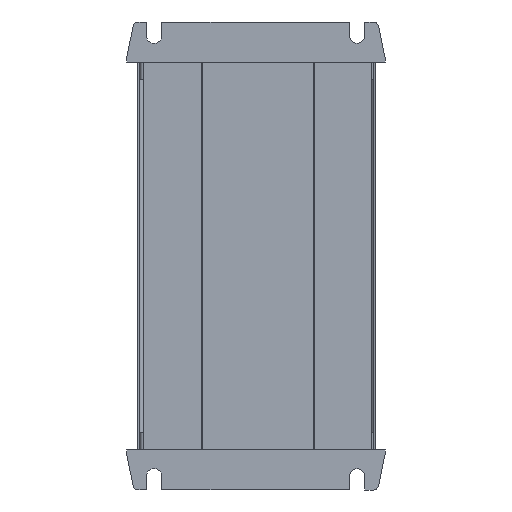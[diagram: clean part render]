
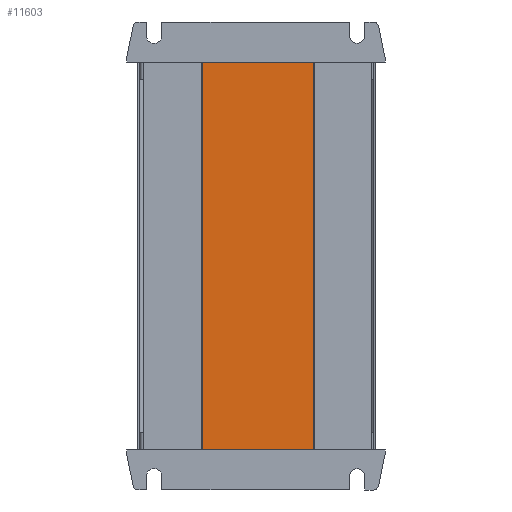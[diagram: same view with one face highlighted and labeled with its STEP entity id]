
A CAD part, front view. The second image highlights one B-rep face of the part: STEP entity #11603.
In plain terms, the highlighted planar face has unit normal (0, -1, 0).
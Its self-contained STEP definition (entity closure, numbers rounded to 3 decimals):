
#4709 = PLANE('',#4710);
#4710 = AXIS2_PLACEMENT_3D('',#4711,#4712,#4713);
#4711 = CARTESIAN_POINT('',(-43.682,-13.302,146.91));
#4712 = DIRECTION('',(0.,0.,-1.));
#4713 = DIRECTION('',(-1.,0.,0.));
#5864 = VERTEX_POINT('',#5865);
#5865 = CARTESIAN_POINT('',(21.926,-13.336,146.91));
#5879 = PLANE('',#5880);
#5880 = AXIS2_PLACEMENT_3D('',#5881,#5882,#5883);
#5881 = CARTESIAN_POINT('',(22.097,-13.841,-3.09));
#5882 = DIRECTION('',(-0.947,-0.321,0.));
#5883 = DIRECTION('',(-0.321,0.947,0.));
#5891 = EDGE_CURVE('',#5892,#5864,#5894,.T.);
#5892 = VERTEX_POINT('',#5893);
#5893 = CARTESIAN_POINT('',(-21.187,-13.336,146.91));
#5894 = SURFACE_CURVE('',#5895,(#5899,#5906),.PCURVE_S1.);
#5895 = LINE('',#5896,#5897);
#5896 = CARTESIAN_POINT('',(-21.187,-13.336,146.91));
#5897 = VECTOR('',#5898,1.);
#5898 = DIRECTION('',(1.,0.,0.));
#5899 = PCURVE('',#4709,#5900);
#5900 = DEFINITIONAL_REPRESENTATION('',(#5901),#5905);
#5901 = LINE('',#5902,#5903);
#5902 = CARTESIAN_POINT('',(-22.495,-0.034));
#5903 = VECTOR('',#5904,1.);
#5904 = DIRECTION('',(-1.,0.));
#5905 = ( GEOMETRIC_REPRESENTATION_CONTEXT(2) 
PARAMETRIC_REPRESENTATION_CONTEXT() REPRESENTATION_CONTEXT('2D SPACE',''
  ) );
#5906 = PCURVE('',#5907,#5912);
#5907 = PLANE('',#5908);
#5908 = AXIS2_PLACEMENT_3D('',#5909,#5910,#5911);
#5909 = CARTESIAN_POINT('',(-21.187,-13.336,-3.09));
#5910 = DIRECTION('',(0.,1.,0.));
#5911 = DIRECTION('',(1.,0.,0.));
#5912 = DEFINITIONAL_REPRESENTATION('',(#5913),#5917);
#5913 = LINE('',#5914,#5915);
#5914 = CARTESIAN_POINT('',(0.,-150.));
#5915 = VECTOR('',#5916,1.);
#5916 = DIRECTION('',(1.,0.));
#5917 = ( GEOMETRIC_REPRESENTATION_CONTEXT(2) 
PARAMETRIC_REPRESENTATION_CONTEXT() REPRESENTATION_CONTEXT('2D SPACE',''
  ) );
#5935 = PLANE('',#5936);
#5936 = AXIS2_PLACEMENT_3D('',#5937,#5938,#5939);
#5937 = CARTESIAN_POINT('',(-21.703,-13.861,-3.09));
#5938 = DIRECTION('',(-0.713,0.701,0.));
#5939 = DIRECTION('',(0.701,0.713,0.));
#7409 = PLANE('',#7410);
#7410 = AXIS2_PLACEMENT_3D('',#7411,#7412,#7413);
#7411 = CARTESIAN_POINT('',(49.635,-16.974,-3.09));
#7412 = DIRECTION('',(0.,0.,1.));
#7413 = DIRECTION('',(1.,0.,0.));
#11560 = EDGE_CURVE('',#11561,#5864,#11563,.T.);
#11561 = VERTEX_POINT('',#11562);
#11562 = CARTESIAN_POINT('',(21.926,-13.336,-3.09));
#11563 = SURFACE_CURVE('',#11564,(#11568,#11575),.PCURVE_S1.);
#11564 = LINE('',#11565,#11566);
#11565 = CARTESIAN_POINT('',(21.926,-13.336,-3.09));
#11566 = VECTOR('',#11567,1.);
#11567 = DIRECTION('',(0.,0.,1.));
#11568 = PCURVE('',#5879,#11569);
#11569 = DEFINITIONAL_REPRESENTATION('',(#11570),#11574);
#11570 = LINE('',#11571,#11572);
#11571 = CARTESIAN_POINT('',(0.533,0.));
#11572 = VECTOR('',#11573,1.);
#11573 = DIRECTION('',(0.,-1.));
#11574 = ( GEOMETRIC_REPRESENTATION_CONTEXT(2) 
PARAMETRIC_REPRESENTATION_CONTEXT() REPRESENTATION_CONTEXT('2D SPACE',''
  ) );
#11575 = PCURVE('',#5907,#11576);
#11576 = DEFINITIONAL_REPRESENTATION('',(#11577),#11581);
#11577 = LINE('',#11578,#11579);
#11578 = CARTESIAN_POINT('',(43.113,0.));
#11579 = VECTOR('',#11580,1.);
#11580 = DIRECTION('',(0.,-1.));
#11581 = ( GEOMETRIC_REPRESENTATION_CONTEXT(2) 
PARAMETRIC_REPRESENTATION_CONTEXT() REPRESENTATION_CONTEXT('2D SPACE',''
  ) );
#11603 = ADVANCED_FACE('',(#11604),#5907,.F.);
#11604 = FACE_BOUND('',#11605,.F.);
#11605 = EDGE_LOOP('',(#11606,#11629,#11630,#11631));
#11606 = ORIENTED_EDGE('',*,*,#11607,.T.);
#11607 = EDGE_CURVE('',#11608,#5892,#11610,.T.);
#11608 = VERTEX_POINT('',#11609);
#11609 = CARTESIAN_POINT('',(-21.187,-13.336,-3.09));
#11610 = SURFACE_CURVE('',#11611,(#11615,#11622),.PCURVE_S1.);
#11611 = LINE('',#11612,#11613);
#11612 = CARTESIAN_POINT('',(-21.187,-13.336,-3.09));
#11613 = VECTOR('',#11614,1.);
#11614 = DIRECTION('',(0.,0.,1.));
#11615 = PCURVE('',#5907,#11616);
#11616 = DEFINITIONAL_REPRESENTATION('',(#11617),#11621);
#11617 = LINE('',#11618,#11619);
#11618 = CARTESIAN_POINT('',(0.,0.));
#11619 = VECTOR('',#11620,1.);
#11620 = DIRECTION('',(0.,-1.));
#11621 = ( GEOMETRIC_REPRESENTATION_CONTEXT(2) 
PARAMETRIC_REPRESENTATION_CONTEXT() REPRESENTATION_CONTEXT('2D SPACE',''
  ) );
#11622 = PCURVE('',#5935,#11623);
#11623 = DEFINITIONAL_REPRESENTATION('',(#11624),#11628);
#11624 = LINE('',#11625,#11626);
#11625 = CARTESIAN_POINT('',(0.736,0.));
#11626 = VECTOR('',#11627,1.);
#11627 = DIRECTION('',(0.,-1.));
#11628 = ( GEOMETRIC_REPRESENTATION_CONTEXT(2) 
PARAMETRIC_REPRESENTATION_CONTEXT() REPRESENTATION_CONTEXT('2D SPACE',''
  ) );
#11629 = ORIENTED_EDGE('',*,*,#5891,.T.);
#11630 = ORIENTED_EDGE('',*,*,#11560,.F.);
#11631 = ORIENTED_EDGE('',*,*,#11632,.F.);
#11632 = EDGE_CURVE('',#11608,#11561,#11633,.T.);
#11633 = SURFACE_CURVE('',#11634,(#11638,#11645),.PCURVE_S1.);
#11634 = LINE('',#11635,#11636);
#11635 = CARTESIAN_POINT('',(-21.187,-13.336,-3.09));
#11636 = VECTOR('',#11637,1.);
#11637 = DIRECTION('',(1.,0.,0.));
#11638 = PCURVE('',#5907,#11639);
#11639 = DEFINITIONAL_REPRESENTATION('',(#11640),#11644);
#11640 = LINE('',#11641,#11642);
#11641 = CARTESIAN_POINT('',(0.,0.));
#11642 = VECTOR('',#11643,1.);
#11643 = DIRECTION('',(1.,0.));
#11644 = ( GEOMETRIC_REPRESENTATION_CONTEXT(2) 
PARAMETRIC_REPRESENTATION_CONTEXT() REPRESENTATION_CONTEXT('2D SPACE',''
  ) );
#11645 = PCURVE('',#7409,#11646);
#11646 = DEFINITIONAL_REPRESENTATION('',(#11647),#11651);
#11647 = LINE('',#11648,#11649);
#11648 = CARTESIAN_POINT('',(-70.822,3.637));
#11649 = VECTOR('',#11650,1.);
#11650 = DIRECTION('',(1.,0.));
#11651 = ( GEOMETRIC_REPRESENTATION_CONTEXT(2) 
PARAMETRIC_REPRESENTATION_CONTEXT() REPRESENTATION_CONTEXT('2D SPACE',''
  ) );
